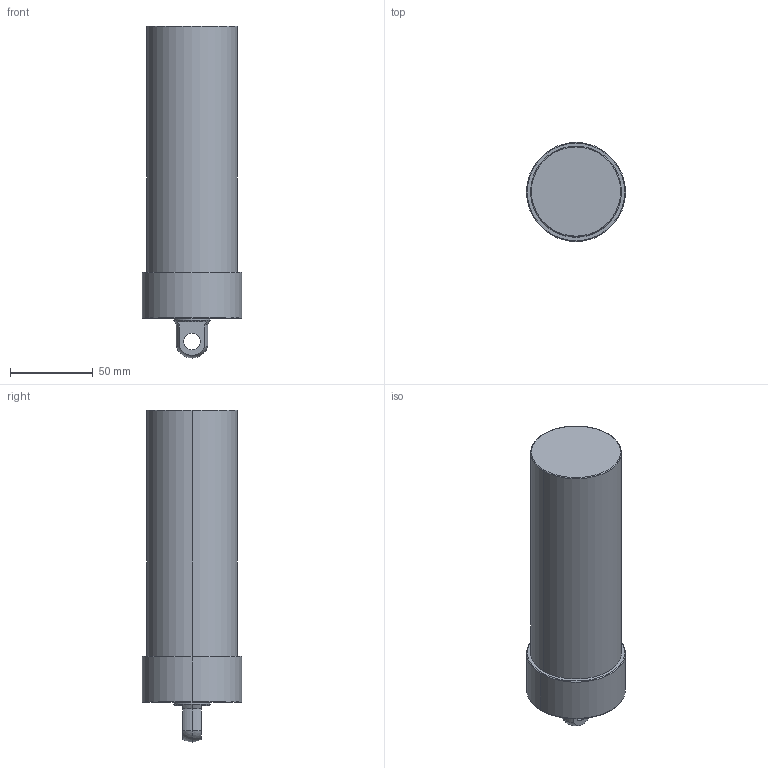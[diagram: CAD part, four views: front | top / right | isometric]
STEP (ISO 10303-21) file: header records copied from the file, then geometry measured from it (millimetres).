
FILE_DESCRIPTION (( 'STEP AP203' ), '1' );
FILE_NAME ('CLLU-055GP-120.STEP', '2020-01-06T07:44:40', ( '' ), ( '' ), 'SwSTEP 2.0', 'SolidWorks 2015', '' );
FILE_SCHEMA (( 'CONFIG_CONTROL_DESIGN' ));
Length unit declared in the file: millimetre
Products named in the file (1): CLLU-055GP-120
Bounding box: 60 x 60 x 201 mm (x, y, z)
Volume: 435396 mm3; surface area: 38999.1 mm2
Topology: 1 solids, 1 shells, 58 faces, 131 edges, 75 vertices
Faces by surface type: cylinder 23, cone 18, plane 9, torus 6, sphere 2
Entity records: 1658 total; most frequent: DIRECTION 311, CARTESIAN_POINT 269, ORIENTED_EDGE 246, AXIS2_PLACEMENT_3D 133, EDGE_CURVE 123, VERTEX_POINT 75, CIRCLE 74, EDGE_LOOP 68
